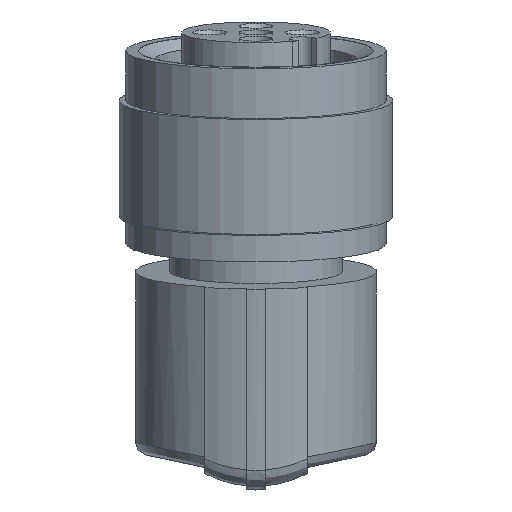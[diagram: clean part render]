
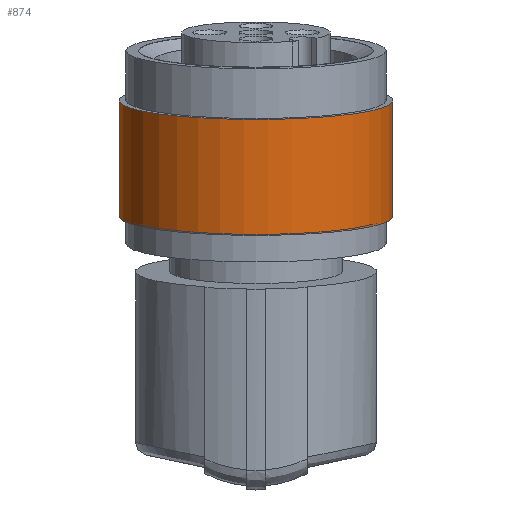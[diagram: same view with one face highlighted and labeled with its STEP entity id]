
A CAD part, left-side view. The second image highlights one B-rep face of the part: STEP entity #874.
In plain terms, the highlighted cylindrical face has radius 7.4 mm (diameter 14.8 mm), a full revolution.
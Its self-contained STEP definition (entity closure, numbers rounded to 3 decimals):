
#874 = ADVANCED_FACE( '', ( #1901, #1902 ), #1903, .T. );
#1901 = FACE_OUTER_BOUND( '', #4108, .T. );
#1902 = FACE_OUTER_BOUND( '', #4109, .T. );
#1903 = CYLINDRICAL_SURFACE( '', #4110, 7.4 );
#4108 = EDGE_LOOP( '', ( #7617 ) );
#4109 = EDGE_LOOP( '', ( #7618 ) );
#4110 = AXIS2_PLACEMENT_3D( '', #7619, #7620, #7621 );
#7617 = ORIENTED_EDGE( '', *, *, #8536, .F. );
#7618 = ORIENTED_EDGE( '', *, *, #8953, .T. );
#7619 = CARTESIAN_POINT( '', ( -212.144, 0., 12.103 ) );
#7620 = DIRECTION( '', ( 0.139, 0., -0.99 ) );
#7621 = DIRECTION( '', ( 0.7, -0.707, 0.098 ) );
#8536 = EDGE_CURVE( '', #9856, #9856, #9857, .T. );
#8953 = EDGE_CURVE( '', #10513, #10513, #10514, .T. );
#9856 = VERTEX_POINT( '', #13603 );
#9857 = CIRCLE( '', #13604, 7.4 );
#10513 = VERTEX_POINT( '', #16098 );
#10514 = CIRCLE( '', #16099, 7.4 );
#13603 = CARTESIAN_POINT( '', ( -207.352, -5.233, 15.604 ) );
#13604 = AXIS2_PLACEMENT_3D( '', #18373, #18374, #18375 );
#16098 = CARTESIAN_POINT( '', ( -206.475, -5.233, 9.365 ) );
#16099 = AXIS2_PLACEMENT_3D( '', #18781, #18782, #18783 );
#18373 = CARTESIAN_POINT( '', ( -212.534, 0., 14.875 ) );
#18374 = DIRECTION( '', ( -0.139, 0., 0.99 ) );
#18375 = DIRECTION( '', ( 0.7, -0.707, 0.098 ) );
#18781 = CARTESIAN_POINT( '', ( -211.657, 0., 8.637 ) );
#18782 = DIRECTION( '', ( -0.139, 0., 0.99 ) );
#18783 = DIRECTION( '', ( 0.7, -0.707, 0.098 ) );
